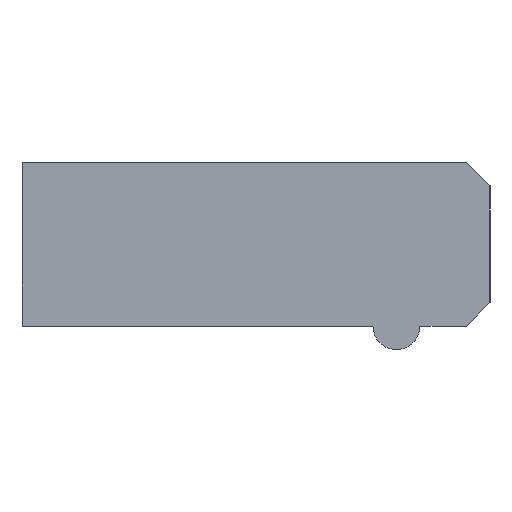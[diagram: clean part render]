
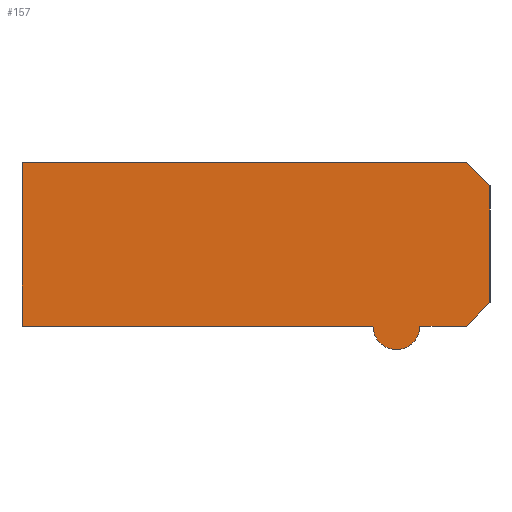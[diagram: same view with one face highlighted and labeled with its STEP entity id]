
A CAD part, left-side view. The second image highlights one B-rep face of the part: STEP entity #157.
In plain terms, the highlighted planar face has unit normal (-1, 0, 0).
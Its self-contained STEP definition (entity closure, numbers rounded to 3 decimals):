
#133 = EDGE_CURVE( '', #139, #239, #306, .T. );
#139 = VERTEX_POINT( '', #312 );
#153 = EDGE_CURVE( '', #215, #167, #326, .T. );
#157 = ADVANCED_FACE( '', ( #331 ), #332, .F. );
#161 = EDGE_CURVE( '', #241, #223, #336, .T. );
#167 = VERTEX_POINT( '', #342 );
#173 = EDGE_CURVE( '', #239, #185, #349, .T. );
#185 = VERTEX_POINT( '', #361 );
#187 = EDGE_CURVE( '', #223, #139, #363, .T. );
#195 = VERTEX_POINT( '', #371 );
#199 = EDGE_CURVE( '', #167, #195, #375, .T. );
#215 = VERTEX_POINT( '', #395 );
#223 = VERTEX_POINT( '', #405 );
#239 = VERTEX_POINT( '', #423 );
#241 = VERTEX_POINT( '', #425 );
#243 = EDGE_CURVE( '', #185, #215, #427, .T. );
#245 = EDGE_CURVE( '', #195, #241, #429, .T. );
#306 = LINE( '', #504, #505 );
#312 = CARTESIAN_POINT( '', ( -6., -20., 2.5 ) );
#326 = CIRCLE( '', #533, 1. );
#331 = FACE_OUTER_BOUND( '', #538, .T. );
#332 = PLANE( '', #539 );
#336 = LINE( '', #545, #546 );
#342 = CARTESIAN_POINT( '', ( -6., -15., -3.5 ) );
#349 = LINE( '', #563, #564 );
#361 = CARTESIAN_POINT( '', ( -6., -19., -3.5 ) );
#363 = LINE( '', #585, #586 );
#371 = CARTESIAN_POINT( '', ( -6., 0., -3.5 ) );
#375 = LINE( '', #603, #604 );
#395 = CARTESIAN_POINT( '', ( -6., -17., -3.5 ) );
#405 = CARTESIAN_POINT( '', ( -6., -19., 3.5 ) );
#423 = CARTESIAN_POINT( '', ( -6., -20., -2.5 ) );
#425 = CARTESIAN_POINT( '', ( -6., 0., 3.5 ) );
#427 = LINE( '', #661, #662 );
#429 = LINE( '', #665, #666 );
#504 = CARTESIAN_POINT( '', ( -6., -20., 2.5 ) );
#505 = VECTOR( '', #723, 1. );
#533 = AXIS2_PLACEMENT_3D( '', #734, #735, #736 );
#538 = EDGE_LOOP( '', ( #744, #745, #746, #747, #748, #749, #750, #751 ) );
#539 = AXIS2_PLACEMENT_3D( '', #752, #753, #754 );
#545 = CARTESIAN_POINT( '', ( -6., 0., 3.5 ) );
#546 = VECTOR( '', #758, 1. );
#563 = CARTESIAN_POINT( '', ( -6., -20., -2.5 ) );
#564 = VECTOR( '', #775, 1. );
#585 = CARTESIAN_POINT( '', ( -6., -19., 3.5 ) );
#586 = VECTOR( '', #784, 1. );
#603 = CARTESIAN_POINT( '', ( -6., -15., -3.5 ) );
#604 = VECTOR( '', #787, 1. );
#661 = CARTESIAN_POINT( '', ( -6., -19., -3.5 ) );
#662 = VECTOR( '', #852, 1. );
#665 = CARTESIAN_POINT( '', ( -6., 0., -3.5 ) );
#666 = VECTOR( '', #853, 1. );
#723 = DIRECTION( '', ( 0., 0., -1. ) );
#734 = CARTESIAN_POINT( '', ( -6., -16., -3.5 ) );
#735 = DIRECTION( '', ( 1., 0., 0. ) );
#736 = DIRECTION( '', ( 0., -1., 0. ) );
#744 = ORIENTED_EDGE( '', *, *, #133, .F. );
#745 = ORIENTED_EDGE( '', *, *, #187, .F. );
#746 = ORIENTED_EDGE( '', *, *, #161, .F. );
#747 = ORIENTED_EDGE( '', *, *, #245, .F. );
#748 = ORIENTED_EDGE( '', *, *, #199, .F. );
#749 = ORIENTED_EDGE( '', *, *, #153, .F. );
#750 = ORIENTED_EDGE( '', *, *, #243, .F. );
#751 = ORIENTED_EDGE( '', *, *, #173, .F. );
#752 = CARTESIAN_POINT( '', ( -6., 0., 0. ) );
#753 = DIRECTION( '', ( 1., 0., 0. ) );
#754 = DIRECTION( '', ( 0., 0., -1. ) );
#758 = DIRECTION( '', ( 0., -1., 0. ) );
#775 = DIRECTION( '', ( 0., 0.707, -0.707 ) );
#784 = DIRECTION( '', ( 0., -0.707, -0.707 ) );
#787 = DIRECTION( '', ( 0., 1., 0. ) );
#852 = DIRECTION( '', ( 0., 1., 0. ) );
#853 = DIRECTION( '', ( 0., 0., 1. ) );
